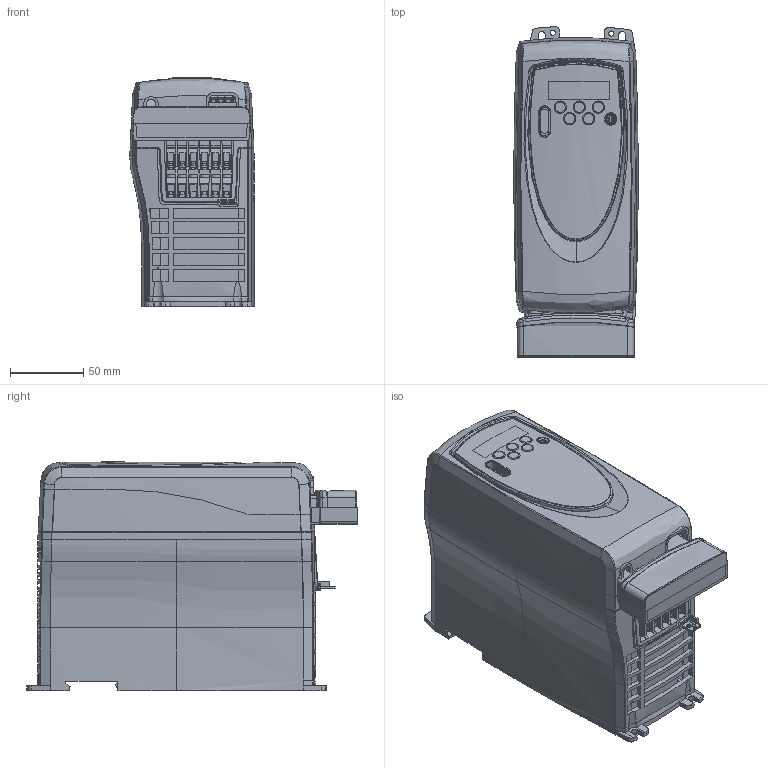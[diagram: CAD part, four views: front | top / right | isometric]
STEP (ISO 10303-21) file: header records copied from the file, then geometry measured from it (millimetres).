
FILE_DESCRIPTION((''),'2;1');
FILE_NAME('PK-SEQ-SK-B-ALL-NOSTIC-N-OPTION','2006-12-19T',('summne01'),(''),'PRO/ENGINEER BY PARAMETRIC TECHNOLOGY CORPORATION, 2006320','PRO/ENGINEER BY PARAMETRIC TECHNOLOGY CORPORATION, 2006320','');
FILE_SCHEMA(('CONFIG_CONTROL_DESIGN'));
Products named in the file (1): PK-SEQ-SK-B-ALL-NOSTIC-N-OPTION
Bounding box: 85 x 226.13 x 156.62 mm (x, y, z)
Surface area: 184537.6 mm2 (no closed solid volume)
Topology: 0 solids, 139 shells, 1070 faces, 4477 edges, 3450 vertices
Faces by surface type: plane 573, cylinder 315, bspline 100, cone 62, torus 15, sphere 3, extrusion 2
Entity records: 55281 total; most frequent: CARTESIAN_POINT 21421, ORIENTED_EDGE 6474, DIRECTION 5975, EDGE_CURVE 4477, VERTEX_POINT 3450, VECTOR 2719, LINE 2717, AXIS2_PLACEMENT_3D 1628
